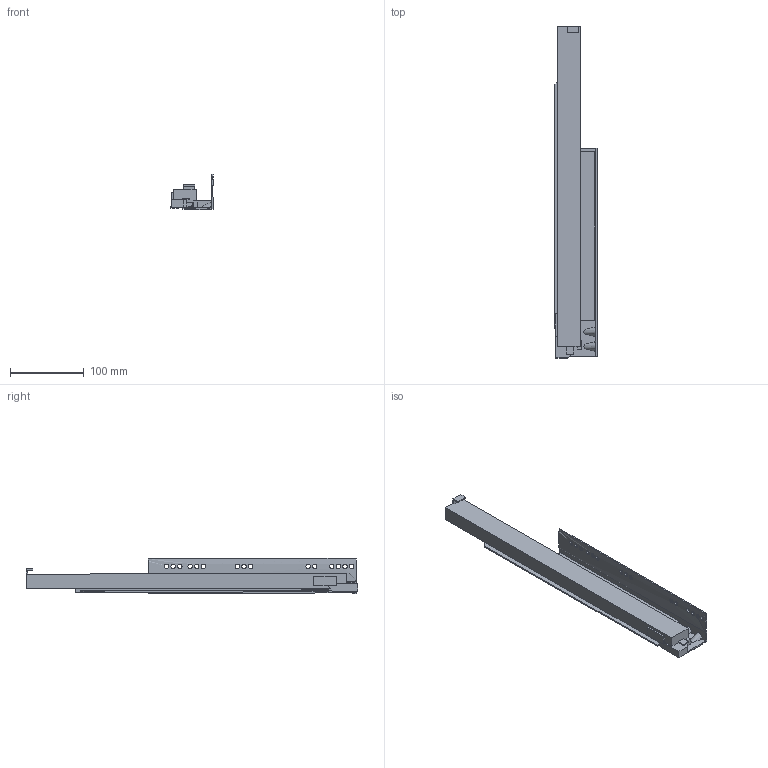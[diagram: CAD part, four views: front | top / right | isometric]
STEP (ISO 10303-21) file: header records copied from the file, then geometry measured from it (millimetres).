
FILE_DESCRIPTION (( 'STEP AP214' ), '1' );
FILE_NAME ('_IMOS_Dynapro_Softclose_D514_NL_450_RE.step', '2010-07-16T06:03:36', ( 'grass' ), ( '' ), 'SwSTEP 2.0', 'SolidWorks 2009', '' );
FILE_SCHEMA (( 'AUTOMOTIVE_DESIGN' ));
Length unit declared in the file: millimetre
Products named in the file (1): _IMOS_Dynapro_Softclose_D514_NL_450_RE
Bounding box: 57.08 x 450.07 x 47.86 mm (x, y, z)
Volume: 386218.8 mm3; surface area: 120718.5 mm2
Topology: 1 solids, 1 shells, 113 faces, 388 edges, 273 vertices
Faces by surface type: plane 76, cylinder 30, bspline 7
Entity records: 5014 total; most frequent: CARTESIAN_POINT 1489, ORIENTED_EDGE 768, DIRECTION 676, EDGE_CURVE 384, LINE 300, VECTOR 300, VERTEX_POINT 273, AXIS2_PLACEMENT_3D 188
